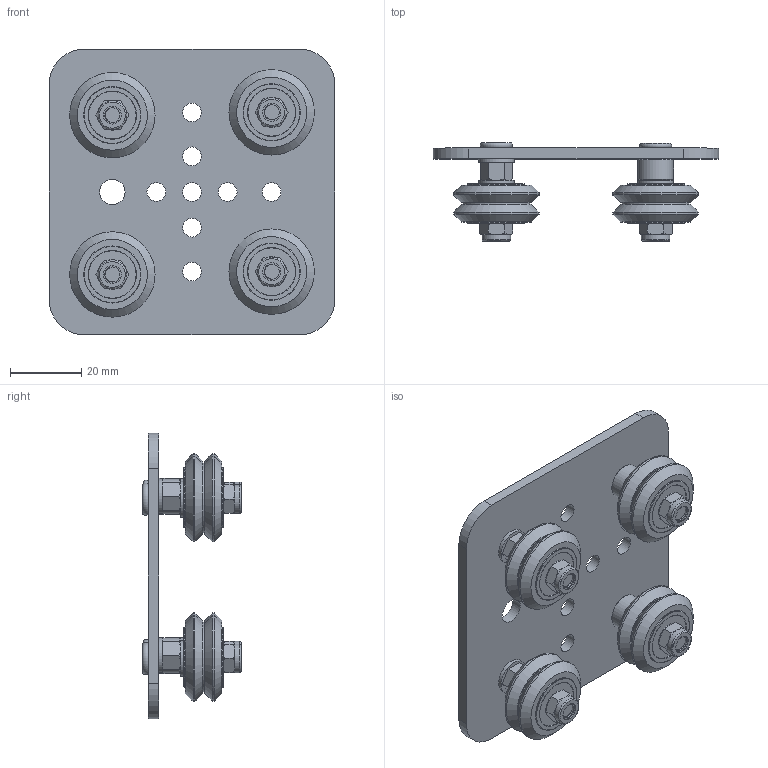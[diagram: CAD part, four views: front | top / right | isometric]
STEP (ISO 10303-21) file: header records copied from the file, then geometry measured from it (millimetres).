
FILE_DESCRIPTION(/* description */ (''),/* implementation_level */ '2;1');
FILE_NAME(/* name */ 'MotionRail Gantry Plate - Small - Assembly.step',/* time_stamp */ '2026-05-13T15:09:23+03:00',/* author */ (''),/* organization */ (''),/* preprocessor_version */ 'ST-DEVELOPER v20.1',/* originating_system */ 'Autodesk Translation Framework v15.8.0.0',/* authorisation */ '');
FILE_SCHEMA (('AUTOMOTIVE_DESIGN { 1 0 10303 214 3 1 1 }'));
Length unit declared in the file: millimetre
Products named in the file (24): MotionRail Gantry Plate Kit - Small; Wheel Set - Eccentric 1; MotionRail Wheel - Assembly; MS-009 V-Slot/MotionRail Bearing Kit; Wheel Set - Aluminum 1; MotionRail Wheel - Assembly_1; MS-009 V-Slot/MotionRail Bearing Kit_1; Wheel Set - Aluminum 1_1; Aluminium Spacer -  5mm - 6mm; MotionRail Wheel - Assembly_2; MS-009 V-Slot/MotionRail Bearing Kit_2; Wheel Set - Eccentric 1_1; M5x25mm Low Profile Bolt; M5 Nyloc Nut - DIN 985 - A2 Stainless Steel; Hexagon Nut DIN 985 - M5 Stainless Steel A2 Plain v1; Precision Shim 10 x 5 x 1; Mini Eccentric Spacer 6mm; MotionRail Wheel - Assembly_3; Delrin V Wheel; MS-009 V-Slot/MotionRail Bearing Kit_3; Precision Shim 10 x 5 x 1_1; 625 2RS; 625 2RS_1; Open Rail Gantry Plate 20mm
Assembly tree (46 placements, depth 5):
  MotionRail Gantry Plate Kit - Small
    Wheel Set - Eccentric 1
      M5x25mm Low Profile Bolt
      M5 Nyloc Nut - DIN 985 - A2 Stainless Steel
        Hexagon Nut DIN 985 - M5 Stainless Steel A2 Plain v1
      Precision Shim 10 x 5 x 1
      Mini Eccentric Spacer 6mm
      MotionRail Wheel - Assembly
        Delrin V Wheel
        MS-009 V-Slot/MotionRail Bearing Kit
          Precision Shim 10 x 5 x 1_1
          625 2RS
          625 2RS_1
    Wheel Set - Aluminum 1
      M5x25mm Low Profile Bolt
      Precision Shim 10 x 5 x 1
      Aluminium Spacer -  5mm - 6mm
      M5 Nyloc Nut - DIN 985 - A2 Stainless Steel
        Hexagon Nut DIN 985 - M5 Stainless Steel A2 Plain v1
      MotionRail Wheel - Assembly_1
        Delrin V Wheel
        MS-009 V-Slot/MotionRail Bearing Kit_1
          Precision Shim 10 x 5 x 1_1
          625 2RS
          625 2RS_1
    Wheel Set - Aluminum 1_1
      M5x25mm Low Profile Bolt
      Precision Shim 10 x 5 x 1
      Aluminium Spacer -  5mm - 6mm
      M5 Nyloc Nut - DIN 985 - A2 Stainless Steel
        Hexagon Nut DIN 985 - M5 Stainless Steel A2 Plain v1
      MotionRail Wheel - Assembly_2
        Delrin V Wheel
        MS-009 V-Slot/MotionRail Bearing Kit_2
          Precision Shim 10 x 5 x 1_1
          625 2RS
          625 2RS_1
    Wheel Set - Eccentric 1_1
      M5x25mm Low Profile Bolt
      M5 Nyloc Nut - DIN 985 - A2 Stainless Steel
        Hexagon Nut DIN 985 - M5 Stainless Steel A2 Plain v1
      Precision Shim 10 x 5 x 1
      Mini Eccentric Spacer 6mm
      MotionRail Wheel - Assembly_3
        Delrin V Wheel
        MS-009 V-Slot/MotionRail Bearing Kit_3
          Precision Shim 10 x 5 x 1_1
          625 2RS
          625 2RS_1
    Open Rail Gantry Plate 20mm
Bounding box: 80 x 27.5 x 80 mm (x, y, z)
Volume: 36770.1 mm3; surface area: 38758 mm2
Topology: 77 solids, 77 shells, 955 faces, 2099 edges, 1366 vertices
Faces by surface type: cylinder 455, plane 288, cone 132, torus 72, bspline 8
Full cylindrical faces by diameter (mm): 3.99 x36, 4.234 x8, 4.901 x72, 5 x24, 5.2 x10, 7.1 x3, 7.11 x2, 7.261 x8, 8 x4, 8.4 x32, 10 x10, 13.3 x32, 13.9 x4, 16 x16, 18.75 x4, 23.9 x8
Entity records: 11985 total; most frequent: CARTESIAN_POINT 5330, DIRECTION 1305, ORIENTED_EDGE 1202, EDGE_CURVE 601, AXIS2_PLACEMENT_3D 542, VERTEX_POINT 392, EDGE_LOOP 339, FACE_OUTER_BOUND 269
